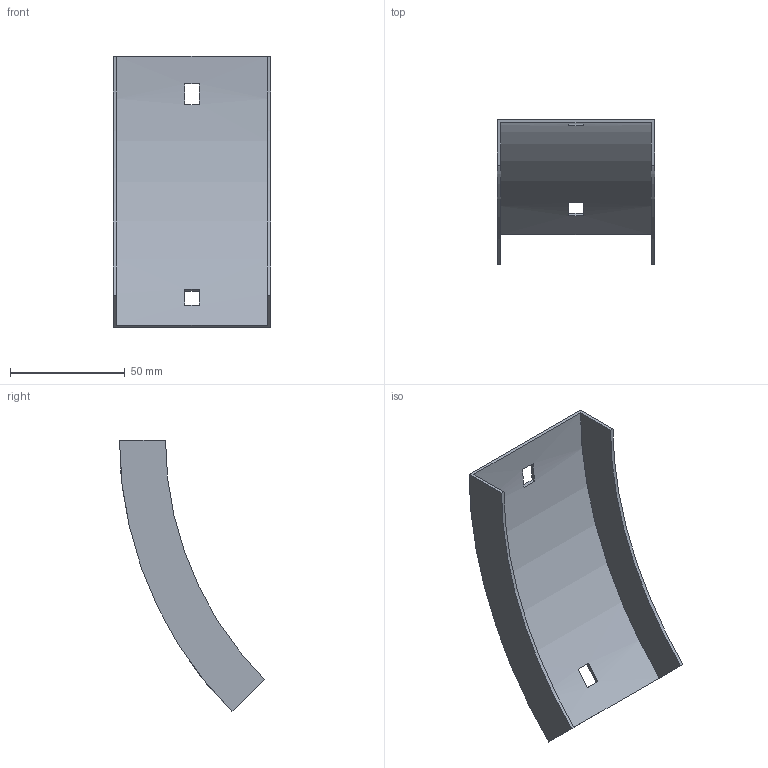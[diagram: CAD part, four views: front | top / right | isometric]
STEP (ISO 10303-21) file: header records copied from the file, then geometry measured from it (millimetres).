
FILE_DESCRIPTION (( 'STEP AP214' ), '1' );
FILE_NAME ('34N1H065.step', '2025-02-21T09:15:13', ( '' ), ( '' ), 'SwSTEP 2.0', 'SolidWorks 2023', '' );
FILE_SCHEMA (( 'AUTOMOTIVE_DESIGN' ));
Length unit declared in the file: millimetre
Products named in the file (1): 34N1H065
Bounding box: 68.5 x 63.06 x 118.09 mm (x, y, z)
Volume: 20050.8 mm3; surface area: 27492.5 mm2
Topology: 1 solids, 1 shells, 18 faces, 48 edges, 32 vertices
Faces by surface type: plane 14, cylinder 4
Entity records: 599 total; most frequent: DIRECTION 102, CARTESIAN_POINT 99, ORIENTED_EDGE 96, EDGE_CURVE 48, AXIS2_PLACEMENT_3D 35, VECTOR 32, LINE 32, VERTEX_POINT 32
